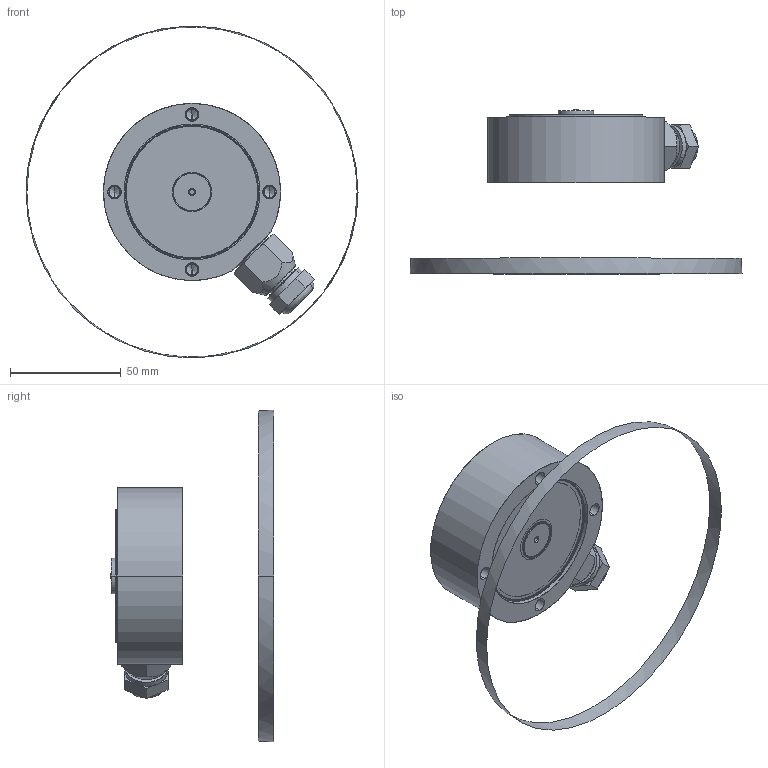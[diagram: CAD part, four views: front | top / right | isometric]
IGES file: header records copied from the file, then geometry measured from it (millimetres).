
Start section: SolidWorks IGES file using analytic representation for surfaces
Global section: file name: C:\0_Work\SolidWorks\HI HPLP Load Points\HI HP50 Load Sensor_1.1KLB-11KLB\Load Sensor_HI HP50-SS-1.1KLB-11KLB.IGS; native system: SolidWorks 2013; preprocessor: SolidWorks 2013; author: vach01; date: 130927.094103; units: millimetre
Bounding box: 149.99 x 73.99 x 149.91 mm (x, y, z)
Surface area: 44172.9 mm2 (no closed solid volume)
Topology: 0 solids, 0 shells, 202 faces, 4000 edges, 3992 vertices
Faces by surface type: revolution 118, bspline 84
